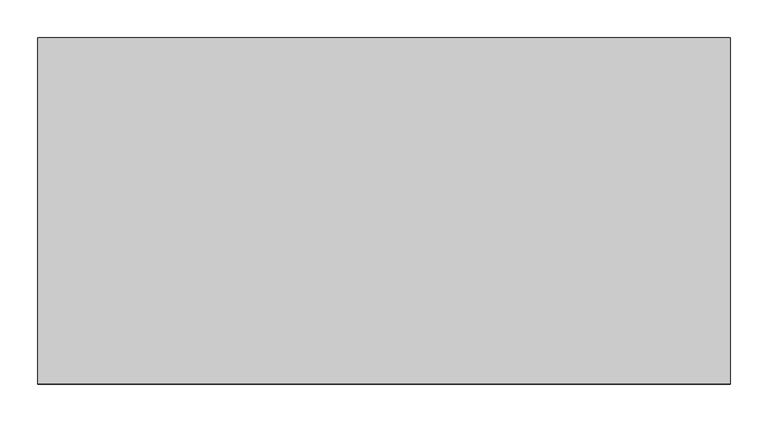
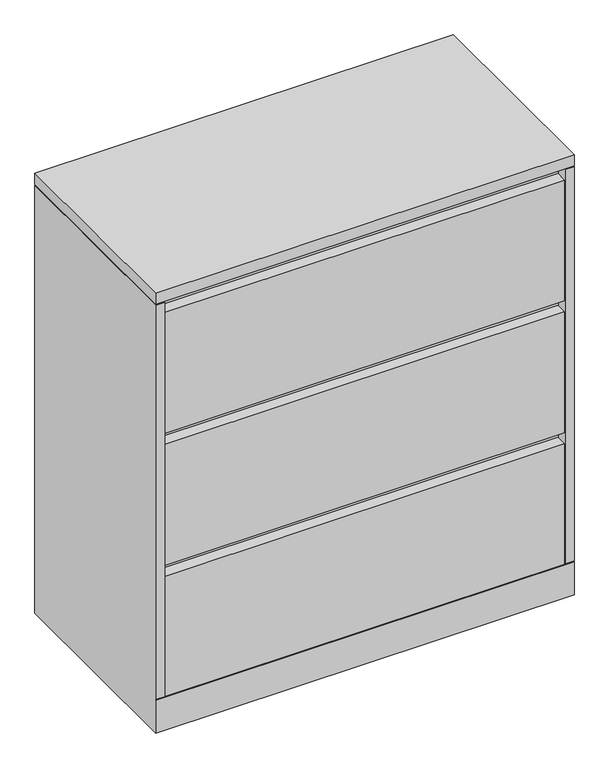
"""IFC4 building model written with IfcOpenShell, lengths in millimetres: furniture geometry, Steelcase - Universal Storage - Lateral File - 3 and 4 High - Flush Steel : 3 Drawers - 18D x 36W."""

import ifcopenshell
import ifcopenshell.guid

model = None  # the IFC model being written
_history = None  # IfcOwnerHistory: only IFC2X3 demands one
_inside = {}  # id of a spatial element -> (the spatial element, [elements in it])
_under = {}  # id of a project, library or spatial element -> (it, [spatial elements below it])
_declared = {}  # id of a project -> (the project, [libraries it declares])
_typed = {}  # id of a type object -> (the type object, [elements of that type])
_made_of = {}  # id of a material, layer set ... -> (it, [elements and type objects made of it])


def new_model(schema):
    """Start an empty IFC model of exactly this schema.

    Asked for "IFC4X3", IfcOpenShell would pick the latest addendum, in which some entities
    have other attributes; the version numbers below select the first issue.
    IFC2X3 requires an IfcOwnerHistory on every rooted entity: one is made here for all.
    """
    global model, _history
    if schema == "IFC4X3":
        model = ifcopenshell.file(schema_version=(4, 3, 0, 0))
    else:
        model = ifcopenshell.file(schema=schema)
    _inside.clear()
    _under.clear()
    _declared.clear()
    _typed.clear()
    _made_of.clear()
    _history = None
    if model.schema == "IFC2X3":
        org = make("IfcOrganization", Name="unknown")
        user = make(
            "IfcPersonAndOrganization",
            ThePerson=make("IfcPerson", FamilyName="unknown"),
            TheOrganization=org,
        )
        app = make(
            "IfcApplication",
            ApplicationDeveloper=org,
            Version="unknown",
            ApplicationFullName="unknown",
            ApplicationIdentifier="unknown",
        )
        _history = make(
            "IfcOwnerHistory",
            OwningUser=user,
            OwningApplication=app,
            ChangeAction="ADDED",
            CreationDate=0,
        )
    return model


def make(cls, **values):
    """One entity of the class cls with the attributes given. An attribute that is None is left unset."""
    return model.create_entity(
        cls, **{name: value for name, value in values.items() if value is not None}
    )


def rooted(cls, **values):
    """An entity with a GlobalId (a new one), such as an element, a storey or a relation."""
    return make(cls, GlobalId=ifcopenshell.guid.new(), OwnerHistory=_history, **values)


def si_unit(unit_type, name, prefix=None):
    """IfcSIUnit, for example si_unit("LENGTHUNIT", "METRE", prefix="MILLI")."""
    return make("IfcSIUnit", UnitType=unit_type, Prefix=prefix, Name=name)


def assignment(units):
    """IfcUnitAssignment: the units of a project."""
    return None if units is None else make("IfcUnitAssignment", Units=units)


def point(xyz):
    """IfcCartesianPoint."""
    return None if xyz is None else make("IfcCartesianPoint", Coordinates=xyz)


def direction(xyz):
    """IfcDirection."""
    return None if xyz is None else make("IfcDirection", DirectionRatios=xyz)


def frame(location, z_axis=None, x_axis=None):
    """IfcAxis2Placement3D, a coordinate frame: its origin and axes. An axis left out is left unset."""
    return make(
        "IfcAxis2Placement3D",
        Location=point(location),
        Axis=direction(z_axis),
        RefDirection=direction(x_axis),
    )


def origin():
    """The frame at (0, 0, 0) with its axes left unset."""
    return frame((0.0, 0.0, 0.0))


def place(relative_to, where):
    """IfcLocalPlacement: puts the frame where relative to a parent placement (None: the world)."""
    return make(
        "IfcLocalPlacement", PlacementRelTo=relative_to, RelativePlacement=where
    )


def context(
    kind, dimensions, precision=None, world=None, true_north=None, identifier=None
):
    """IfcGeometricRepresentationContext, for example the 3D "Model" context."""
    return make(
        "IfcGeometricRepresentationContext",
        ContextIdentifier=identifier,
        ContextType=kind,
        CoordinateSpaceDimension=dimensions,
        Precision=precision,
        WorldCoordinateSystem=world,
        TrueNorth=true_north,
    )


def project(units=None, contexts=None):
    """IfcProject with its units and contexts."""
    return rooted(
        "IfcProject",
        Name="project",
        RepresentationContexts=contexts,
        UnitsInContext=assignment(units),
    )


def spatial(cls, under=None, at=None, **own):
    """A site, building, storey or space (cls), placed at a placement, below another one or the project."""
    s = rooted(cls, ObjectPlacement=at, **own)
    if under is not None:
        _under.setdefault(under.id(), (under, []))[1].append(s)
    return s


def polyline(points):
    """IfcPolyline through the points."""
    return make("IfcPolyline", Points=[point(p) for p in points])


def outline(outer, holes=None, kind="AREA"):
    """IfcArbitraryClosedProfileDef: a profile drawn as a closed curve; with holes, ...WithVoids."""
    if holes is None:
        return make("IfcArbitraryClosedProfileDef", ProfileType=kind, OuterCurve=outer)
    return make(
        "IfcArbitraryProfileDefWithVoids",
        ProfileType=kind,
        OuterCurve=outer,
        InnerCurves=holes,
    )


def extrude(swept, where, along, depth):
    """IfcExtrudedAreaSolid: the profile swept, set in the frame where, extruded along a direction by depth."""
    return make(
        "IfcExtrudedAreaSolid",
        SweptArea=swept,
        Position=where,
        ExtrudedDirection=direction(along),
        Depth=depth,
    )


def faces_of(points, faces, orient=None, outer=None):
    """IfcFace entities. A face is a list of loops; a loop is a list of indices into points, from 0.

    orient and outer hold one flag for each loop. By default every Orientation is true, the
    first loop of a face is its IfcFaceOuterBound and the others are IfcFaceBound.
    """
    made = []
    for i, loops in enumerate(faces):
        bounds = []
        for j, loop in enumerate(loops):
            is_outer = j == 0 if outer is None else outer[i][j]
            bounds.append(
                make(
                    "IfcFaceOuterBound" if is_outer else "IfcFaceBound",
                    Bound=make("IfcPolyLoop", Polygon=[points[k] for k in loop]),
                    Orientation=True if orient is None else orient[i][j],
                )
            )
        made.append(make("IfcFace", Bounds=bounds))
    return made


def faceted_brep(points, faces, orient=None, outer=None, voids=None):
    """IfcFacetedBrep: a solid bounded by flat faces; with voids (closed shells), ...WithVoids."""
    shared = [point(p) for p in points]
    hull = make("IfcClosedShell", CfsFaces=faces_of(shared, faces, orient, outer))
    if voids is None:
        return make("IfcFacetedBrep", Outer=hull)
    return make(
        "IfcFacetedBrepWithVoids",
        Outer=hull,
        Voids=[
            make(cls, CfsFaces=faces_of(shared, fs, o, b)) for cls, fs, o, b in voids
        ],
    )


def shape(context_of_items, identifier, shape_type, items):
    """IfcShapeRepresentation: the items that make up one representation, for example the "Body"."""
    return make(
        "IfcShapeRepresentation",
        ContextOfItems=context_of_items,
        RepresentationIdentifier=identifier,
        RepresentationType=shape_type,
        Items=items,
    )


def source(mapping_origin, context_of_items, identifier, shape_type, items):
    """IfcRepresentationMap: a shape defined once, which mapped items show again and again."""
    return make(
        "IfcRepresentationMap",
        MappingOrigin=mapping_origin,
        MappedRepresentation=shape(context_of_items, identifier, shape_type, items),
    )


def transform(
    local_origin,
    x_axis=None,
    y_axis=None,
    z_axis=None,
    scale=None,
    scale2=None,
    scale3=None,
    uniform=True,
):
    """IfcCartesianTransformationOperator3D, or its non-uniform kind. x_axis, y_axis, z_axis: its Axis1, 2, 3."""
    if uniform:
        return make(
            "IfcCartesianTransformationOperator3D",
            Axis1=direction(x_axis),
            Axis2=direction(y_axis),
            LocalOrigin=point(local_origin),
            Scale=scale,
            Axis3=direction(z_axis),
        )
    return make(
        "IfcCartesianTransformationOperator3DnonUniform",
        Axis1=direction(x_axis),
        Axis2=direction(y_axis),
        LocalOrigin=point(local_origin),
        Scale=scale,
        Axis3=direction(z_axis),
        Scale2=scale2,
        Scale3=scale3,
    )


def mapped(mapping_source, mapping_target):
    """IfcMappedItem: shows the shape of a source again, moved by a transform."""
    return make(
        "IfcMappedItem", MappingSource=mapping_source, MappingTarget=mapping_target
    )


def made_of(thing, what):
    """Note that an element or type object is made of a material, layer set ...; save() writes the relation."""
    if what is not None:
        _made_of.setdefault(what.id(), (what, []))[1].append(thing)
    return thing


def element(
    cls,
    number,
    at=None,
    inside=None,
    cuts=None,
    type_object=None,
    material=None,
    context=None,
    identifier="Body",
    shape_type=None,
    held_by="IfcProductDefinitionShape",
    body=None,
    shapes=None,
    **own,
):
    """One element of the class cls, such as IfcWall. Its Tag is "e" and its number.

    at: its placement. inside: the storey or other place that contains it. cuts: it is an
    opening in that element (IfcRelVoidsElement). A single representation is given by context,
    identifier, shape_type and body (its items); several are given by shapes. held_by: the class
    of the entity that holds the representations. save() writes the other relations.
    """
    e = rooted(cls, Tag="e%d" % number, ObjectPlacement=at, **own)
    if body is not None:
        shapes = [shape(context, identifier, shape_type, body)]
    if shapes is not None:
        e.Representation = make(held_by, Representations=shapes)
    if inside is not None:
        _inside.setdefault(inside.id(), (inside, []))[1].append(e)
    if cuts is not None:
        rooted(
            "IfcRelVoidsElement", RelatingBuildingElement=cuts, RelatedOpeningElement=e
        )
    if type_object is not None:
        _typed.setdefault(type_object.id(), (type_object, []))[1].append(e)
    return made_of(e, material)


def aggregate(whole, parts):
    """IfcRelAggregates: a whole, such as a stair, and the parts it consists of."""
    return rooted("IfcRelAggregates", RelatingObject=whole, RelatedObjects=parts)


def save(model, path):
    """Write the relations noted so far, then the file.

    IfcRelAggregates (storeys below a building ...), IfcRelContainedInSpatialStructure (elements
    in a storey), IfcRelDefinesByType, IfcRelAssociatesMaterial and IfcRelDeclares: one each for
    every whole, place, type object, material and project.
    """
    for whole, parts in _under.values():
        aggregate(whole, parts)
    for where, things in _inside.values():
        rooted(
            "IfcRelContainedInSpatialStructure",
            RelatedElements=things,
            RelatingStructure=where,
        )
    for kind, things in _typed.values():
        rooted("IfcRelDefinesByType", RelatedObjects=things, RelatingType=kind)
    for what, things in _made_of.values():
        rooted("IfcRelAssociatesMaterial", RelatedObjects=things, RelatingMaterial=what)
    for by, libraries in _declared.values():
        rooted("IfcRelDeclares", RelatingContext=by, RelatedDefinitions=libraries)
    model.write(path)


def furniture_e6256b65(model_context):
    return source(origin(), model_context, "Body", "SolidModel", [
        extrude(outline(polyline([(914.4, 457.2), (914.4, 0.0), (0.0, 0.0), (0.0, 457.2), (914.4, 457.2)])), frame((0.0, 0.0, 990.6), z_axis=(0.0, 0.0, 1.0), x_axis=(1.0, 0.0, 0.0)), (0.0, 0.0, 1.0), 25.4),
        faceted_brep([(914.4, 0.0, 0.0), (914.4, 457.2, 0.0), (914.4, 457.2, 989.0759651), (914.4, 0.0, 989.0759651), (914.4, 0.0, 77.7239985), (914.4, 1.524, 77.7239985), (914.4, 1.524, 76.2), (914.4, 0.0, 76.2), (0.0, 0.0, 0.0), (0.0, 0.0, 76.2), (0.0, 1.524, 76.2), (0.0, 1.524, 77.7239985), (0.0, 0.0, 77.7239985), (0.0, 0.0, 989.0759651), (0.0, 457.2, 989.0759651), (0.0, 457.2, 0.0), (19.304, 0.0, 989.0759651), (19.304, 25.4000121, 989.0759651), (895.096, 25.4000121, 989.0759651), (895.096, 0.0, 989.0759651), (19.304, 25.4000121, 101.600003), (895.096, 25.4000121, 101.600003), (19.304, 1.524, 101.600003), (895.096, 1.524, 101.600003), (895.096, 1.524, 77.7239985), (19.304, 1.524, 77.7239985), (19.304, 0.0, 77.7239985), (895.096, 0.0, 77.7239985)], [[[0, 1, 2, 3, 4, 5, 6, 7]], [[8, 9, 10, 11, 12, 13, 14, 15]], [[1, 0, 8, 15]], [[2, 1, 15, 14]], [[3, 2, 14, 13, 16, 17, 18, 19]], [[17, 20, 21, 18]], [[20, 22, 23, 21]], [[10, 6, 5, 24, 23, 22, 25, 11]], [[7, 6, 10, 9]], [[0, 7, 9, 8]], [[17, 16, 26, 25, 22, 20]], [[26, 16, 13, 12]], [[25, 26, 12, 11]], [[24, 27, 19, 18, 21, 23]], [[27, 24, 5, 4]], [[19, 27, 4, 3]]]),
        extrude(outline(polyline([(889.0000242, 431.7999992), (889.0000242, 25.4000121), (25.4000008, 25.4000121), (25.4000008, 431.7999992), (889.0000242, 431.7999992)])), frame((0.0, 0.0, 989.0759651), z_axis=(0.0, 0.0, 1.0), x_axis=(1.0, 0.0, 0.0)), (0.0, 0.0, 1.0), 1.5240349),
        extrude(outline(polyline([(893.5719835, 0.0), (20.8280006, 0.0), (20.8280006, 25.4000121), (893.5719835, 25.4000121), (893.5719835, 0.0)])), frame((0.0, 0.0, 685.8), z_axis=(0.0, 0.0, 1.0), x_axis=(1.0, 0.0, 0.0)), (0.0, 0.0, 1.0), 279.4),
        extrude(outline(polyline([(893.5719835, 0.0), (20.8280006, 0.0), (20.8280006, 25.4000121), (893.5719835, 25.4000121), (893.5719835, 0.0)])), frame((0.0, 0.0, 381.0), z_axis=(0.0, 0.0, 1.0), x_axis=(1.0, 0.0, 0.0)), (0.0, 0.0, 1.0), 279.4),
        extrude(outline(polyline([(893.5719835, 0.0), (20.8280006, 0.0), (20.8280006, 25.4000121), (893.5719835, 25.4000121), (893.5719835, 0.0)])), frame((0.0, 0.0, 77.7239985), z_axis=(0.0, 0.0, 1.0), x_axis=(1.0, 0.0, 0.0)), (0.0, 0.0, 1.0), 277.8759893),
    ])


if __name__ == "__main__":
    model = new_model("IFC4")
    model_context = context("Model", 3, world=origin())
    ifc_project = project(units=[si_unit("LENGTHUNIT", "METRE", prefix="MILLI")], contexts=[model_context])
    site = spatial("IfcSite", under=ifc_project)
    building = spatial("IfcBuilding", under=site)
    placement = place(None, origin())
    furniture_shape = furniture_e6256b65(model_context)
    element("IfcFurniture", 1, ObjectType="Steelcase - Universal Storage - Lateral File - 3 and 4 High - Flush Steel : 3 Drawers - 18D x 36W", at=placement, inside=building, context=model_context, shape_type="MappedRepresentation", body=[
        mapped(furniture_shape, transform((0.0, 0.0, 0.0), x_axis=(1.0, 0.0, 0.0), y_axis=(0.0, 1.0, 0.0), z_axis=(0.0, 0.0, 1.0))),
    ])
    save(model, "model.ifc")
